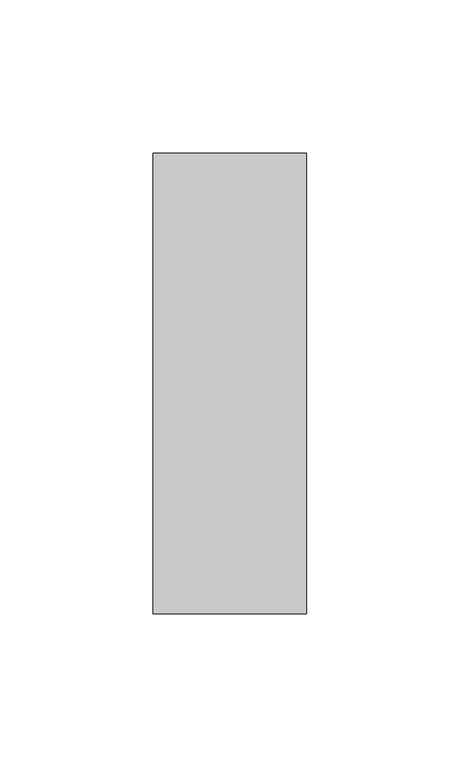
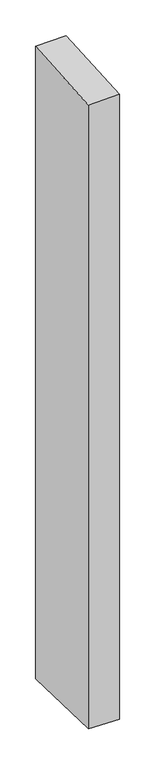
"""IFC4 building model written with IfcOpenShell, lengths in millimetres: member geometry, Прямоугольный импост : 50 x 150 мм."""

from ifc_helpers import new_model, si_unit, origin, place, context, project, spatial, faceted_brep, source, transform, mapped, element, save


def member_c7145c69(model_context):
    return source(origin(), model_context, "Body", "Brep", [
        faceted_brep([(-25.0, 75.0, 4.3176415), (25.0, 75.0, 5.5271584), (25.0, 75.0, -1082.5707322), (-25.0, 75.0, -1081.4590797), (-25.0, -75.0, -5.5271584), (-25.0, -75.0, -1076.6153983), (25.0, -75.0, -4.3176415), (25.0, -75.0, -1077.7270507)], [[[0, 1, 2, 3]], [[4, 0, 3, 5]], [[6, 4, 5, 7]], [[1, 6, 7, 2]], [[1, 0, 4, 6]], [[2, 7, 5, 3]]]),
    ])


if __name__ == "__main__":
    model = new_model("IFC4")
    model_context = context("Model", 3, world=origin())
    ifc_project = project(units=[si_unit("LENGTHUNIT", "METRE", prefix="MILLI")], contexts=[model_context])
    site = spatial("IfcSite", under=ifc_project)
    building = spatial("IfcBuilding", under=site)
    placement = place(None, origin())
    member_shape = member_c7145c69(model_context)
    element("IfcMember", 1, ObjectType="Прямоугольный импост : 50 x 150 мм", at=placement, inside=building, context=model_context, shape_type="MappedRepresentation", body=[
        mapped(member_shape, transform((0.0, 0.0, 0.0), x_axis=(1.0, 0.0, 0.0), y_axis=(0.0, 1.0, 0.0), z_axis=(0.0, 0.0, 1.0))),
    ])
    save(model, "model.ifc")
